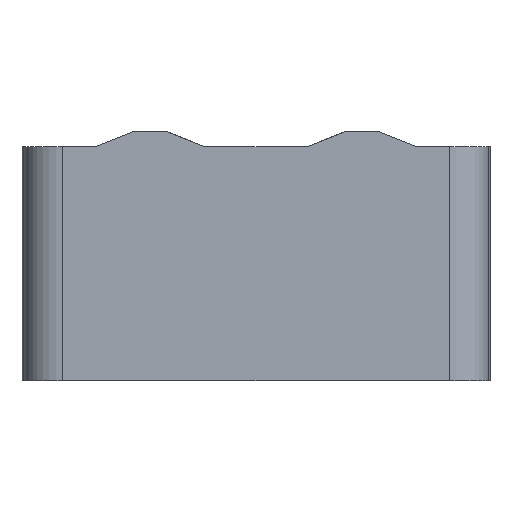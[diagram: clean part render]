
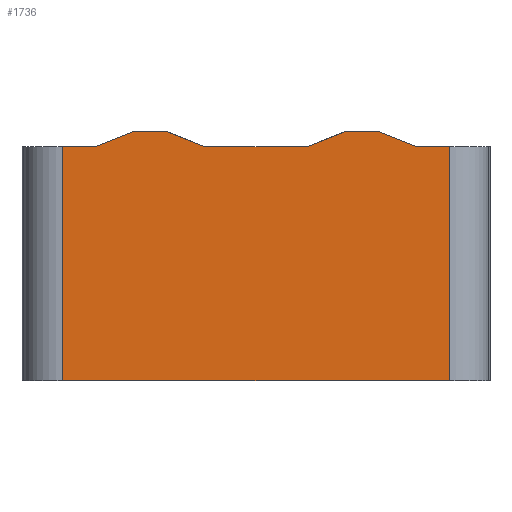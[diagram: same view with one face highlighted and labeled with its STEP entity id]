
A CAD part, front view. The second image highlights one B-rep face of the part: STEP entity #1736.
In plain terms, the highlighted planar face has unit normal (0, -1, 0).
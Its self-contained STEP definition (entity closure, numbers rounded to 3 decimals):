
#92=LINE('',#2647,#188);
#95=LINE('',#2652,#191);
#97=LINE('',#2656,#193);
#103=LINE('',#2797,#199);
#117=LINE('',#2963,#213);
#128=LINE('',#3280,#224);
#129=LINE('',#3283,#225);
#130=LINE('',#3284,#226);
#131=LINE('',#3286,#227);
#132=LINE('',#3288,#228);
#133=LINE('',#3290,#229);
#134=LINE('',#3291,#230);
#188=VECTOR('',#2026,10.);
#191=VECTOR('',#2031,10.);
#193=VECTOR('',#2035,10.);
#199=VECTOR('',#2075,10.);
#213=VECTOR('',#2131,10.);
#224=VECTOR('',#2202,10.);
#225=VECTOR('',#2205,10.);
#226=VECTOR('',#2206,10.);
#227=VECTOR('',#2207,10.);
#228=VECTOR('',#2208,10.);
#229=VECTOR('',#2209,10.);
#230=VECTOR('',#2210,10.);
#297=PLANE('',#1893);
#367=FACE_OUTER_BOUND('',#458,.T.);
#458=EDGE_LOOP('',(#1393,#1394,#1395,#1396,#1397,#1398,#1399,#1400,#1401,
#1402,#1403,#1404));
#680=VERTEX_POINT('',#2644);
#681=VERTEX_POINT('',#2646);
#682=VERTEX_POINT('',#2650);
#683=VERTEX_POINT('',#2654);
#708=VERTEX_POINT('',#2794);
#709=VERTEX_POINT('',#2796);
#741=VERTEX_POINT('',#2962);
#777=VERTEX_POINT('',#3278);
#778=VERTEX_POINT('',#3282);
#779=VERTEX_POINT('',#3285);
#780=VERTEX_POINT('',#3287);
#781=VERTEX_POINT('',#3289);
#876=EDGE_CURVE('',#680,#681,#92,.T.);
#879=EDGE_CURVE('',#682,#680,#95,.T.);
#881=EDGE_CURVE('',#683,#682,#97,.T.);
#912=EDGE_CURVE('',#708,#709,#103,.T.);
#954=EDGE_CURVE('',#681,#741,#117,.T.);
#1013=EDGE_CURVE('',#777,#708,#128,.T.);
#1014=EDGE_CURVE('',#778,#777,#129,.T.);
#1015=EDGE_CURVE('',#741,#778,#130,.T.);
#1016=EDGE_CURVE('',#779,#683,#131,.T.);
#1017=EDGE_CURVE('',#780,#779,#132,.T.);
#1018=EDGE_CURVE('',#780,#781,#133,.T.);
#1019=EDGE_CURVE('',#709,#781,#134,.T.);
#1393=ORIENTED_EDGE('',*,*,#1013,.F.);
#1394=ORIENTED_EDGE('',*,*,#1014,.F.);
#1395=ORIENTED_EDGE('',*,*,#1015,.F.);
#1396=ORIENTED_EDGE('',*,*,#954,.F.);
#1397=ORIENTED_EDGE('',*,*,#876,.F.);
#1398=ORIENTED_EDGE('',*,*,#879,.F.);
#1399=ORIENTED_EDGE('',*,*,#881,.F.);
#1400=ORIENTED_EDGE('',*,*,#1016,.F.);
#1401=ORIENTED_EDGE('',*,*,#1017,.F.);
#1402=ORIENTED_EDGE('',*,*,#1018,.T.);
#1403=ORIENTED_EDGE('',*,*,#1019,.F.);
#1404=ORIENTED_EDGE('',*,*,#912,.F.);
#1736=ADVANCED_FACE('',(#367),#297,.T.);
#1893=AXIS2_PLACEMENT_3D('',#3281,#2203,#2204);
#2026=DIRECTION('',(0.928,0.,-0.371));
#2031=DIRECTION('',(1.,0.,0.));
#2035=DIRECTION('',(0.928,0.,0.371));
#2075=DIRECTION('',(1.,0.,0.));
#2131=DIRECTION('',(1.,0.,0.));
#2202=DIRECTION('',(0.928,0.,-0.371));
#2203=DIRECTION('center_axis',(0.,-1.,0.));
#2204=DIRECTION('ref_axis',(1.,0.,0.));
#2205=DIRECTION('',(1.,0.,0.));
#2206=DIRECTION('',(0.928,0.,0.371));
#2207=DIRECTION('',(1.,0.,0.));
#2208=DIRECTION('',(0.,0.,1.));
#2209=DIRECTION('',(1.,0.,0.));
#2210=DIRECTION('',(0.,0.,-1.));
#2644=CARTESIAN_POINT('',(184.5,0.,320.));
#2646=CARTESIAN_POINT('',(234.5,0.,300.));
#2647=CARTESIAN_POINT('',(173.509,0.,324.397));
#2650=CARTESIAN_POINT('',(144.5,0.,320.));
#2652=CARTESIAN_POINT('',(52.,0.,320.));
#2654=CARTESIAN_POINT('',(94.5,0.,300.));
#2656=CARTESIAN_POINT('',(15.405,0.,268.362));
#2794=CARTESIAN_POINT('',(505.5,0.,300.));
#2796=CARTESIAN_POINT('',(548.,0.,300.));
#2797=CARTESIAN_POINT('',(2.,0.,300.));
#2962=CARTESIAN_POINT('',(365.5,0.,300.));
#2963=CARTESIAN_POINT('',(2.,0.,300.));
#3278=CARTESIAN_POINT('',(455.5,0.,320.));
#3280=CARTESIAN_POINT('',(327.698,0.,371.121));
#3281=CARTESIAN_POINT('Origin',(2.,0.,0.));
#3282=CARTESIAN_POINT('',(415.5,0.,320.));
#3283=CARTESIAN_POINT('',(52.,0.,320.));
#3284=CARTESIAN_POINT('',(169.595,0.,221.638));
#3285=CARTESIAN_POINT('',(52.,0.,300.));
#3286=CARTESIAN_POINT('',(2.,0.,300.));
#3287=CARTESIAN_POINT('',(52.,0.,0.));
#3288=CARTESIAN_POINT('',(52.,0.,0.));
#3289=CARTESIAN_POINT('',(548.,0.,0.));
#3290=CARTESIAN_POINT('',(2.,0.,0.));
#3291=CARTESIAN_POINT('',(548.,0.,0.));
